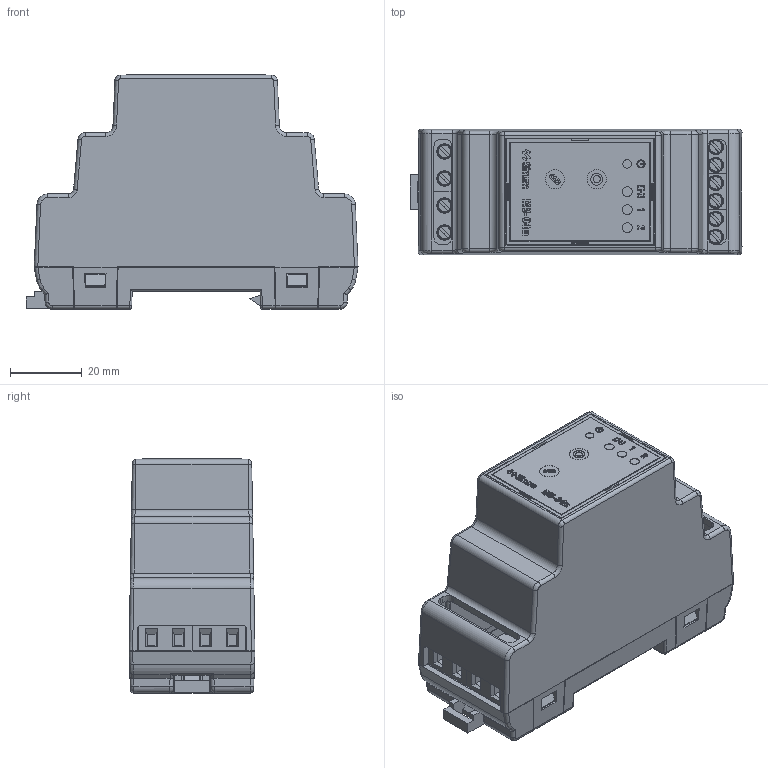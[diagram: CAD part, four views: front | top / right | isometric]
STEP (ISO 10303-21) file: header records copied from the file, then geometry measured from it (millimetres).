
FILE_DESCRIPTION(/* description */ (''),/* implementation_level */ '2;1');
FILE_NAME(/* name */ 'MB-04m.step',/* time_stamp */ '2026-01-24T13:14:36+01:00',/* author */ (''),/* organization */ (''),/* preprocessor_version */ 'ST-DEVELOPER v20.1',/* originating_system */ 'Autodesk Translation Framework v14.24.0.0',/* authorisation */ '');
FILE_SCHEMA (('AUTOMOTIVE_DESIGN { 1 0 10303 214 3 1 1 }'));
Products named in the file (10): (6-6) UNIWERSALNY; Wer.2 (6-6); OP-1014_A; OP-1014_B_2; OP-1014_D; OP-1014_naklejka; OP-267-D; S_023.05.000.00058/...061; DG128-7.5-02P-14-00AH; DG128-5.0-02P-14-00AH
Assembly tree (13 placements, depth 3):
  (6-6) UNIWERSALNY
    Wer.2 (6-6)
      OP-1014_A
      OP-1014_B_2
      OP-1014_D
      OP-1014_naklejka
      S_023.05.000.00058/...061  x2
      OP-267-D
    DG128-7.5-02P-14-00AH  x2
    DG128-5.0-02P-14-00AH  x3
Bounding box: 92.28 x 35 x 65.1 mm (x, y, z)
Volume: 42687.5 mm3; surface area: 48655.3 mm2
Topology: 12 solids, 12 shells, 4724 faces, 12990 edges, 8591 vertices
Faces by surface type: plane 3321, bspline 1126, cylinder 197, cone 44, torus 32, sphere 4
Full cylindrical faces by diameter (mm): 2 x1, 2.409 x1, 2.83 x2, 3.295 x1, 4 x10, 4.1 x20
Entity records: 131636 total; most frequent: CARTESIAN_POINT 42754, ORIENTED_EDGE 19802, DIRECTION 15112, EDGE_CURVE 9901, LINE 8092, VECTOR 8092, VERTEX_POINT 6551, EDGE_LOOP 3790
